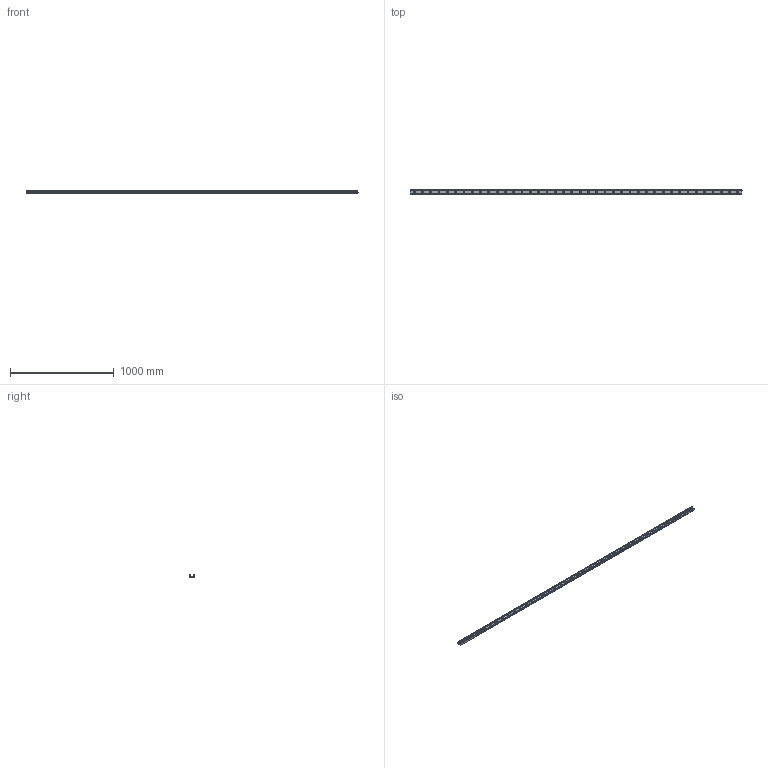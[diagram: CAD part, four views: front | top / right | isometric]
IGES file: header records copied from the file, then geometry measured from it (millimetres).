
Start section: SolidWorks IGES file using analytic representation for surfaces
Global section: file name: C:\Users\IanO\Desktop\43\L1943.ULV43_v2_20180121_IGES\L1943.ULV43-3200.igs; native system: SolidWorks 2017; preprocessor: SolidWorks 2017; author: IanO; date: 190121.090513; units: millimetre
Bounding box: 3200 x 43 x 21 mm (x, y, z)
Surface area: 496455.3 mm2 (no closed solid volume)
Topology: 0 solids, 0 shells, 186 faces, 3494 edges, 3494 vertices
Faces by surface type: revolution 173, bspline 13
